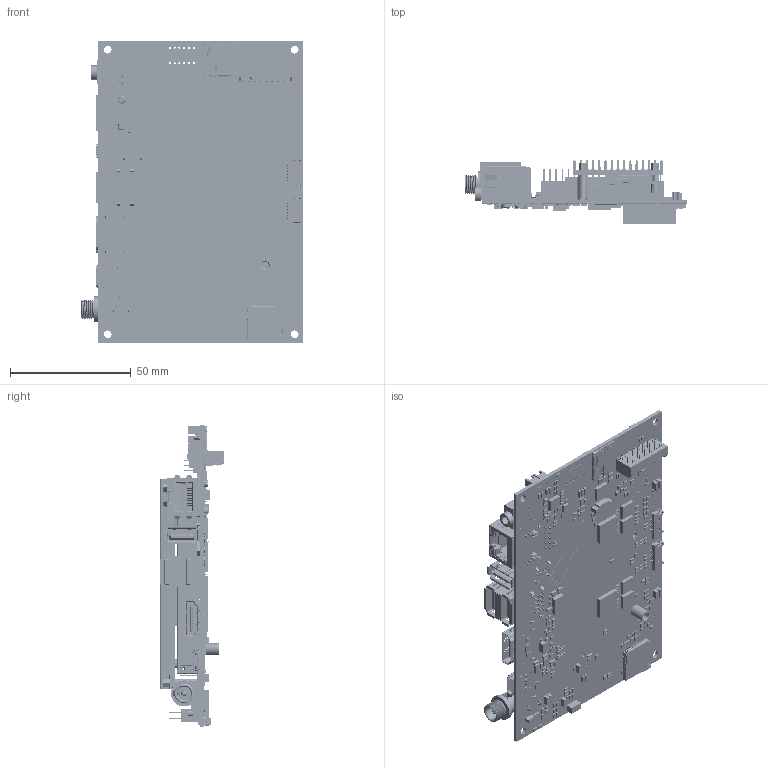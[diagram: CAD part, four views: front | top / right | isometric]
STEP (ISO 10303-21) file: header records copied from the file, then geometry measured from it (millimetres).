
FILE_DESCRIPTION((''),'2;1');
FILE_NAME('WB-EDM-G-IMX8M-PLUG-HS06_ASM','2021-03-31T',('gary'),(''),'CREO PARAMETRIC BY PTC INC, 2014350','CREO PARAMETRIC BY PTC INC, 2014350','');
FILE_SCHEMA(('AUTOMOTIVE_DESIGN { 1 0 10303 214 1 1 1 1 }'));
Products named in the file (154): TN252-PCB; DCD-020-66M; UT11113-11604-7H-327-0708-X2__1; UT11113-11604-7H-327-0708-X2__2; UT11113-11604-7H-327-0708-X2_1_ASM; AUDIO_PJD-035-47B; PIN_HOLDER_2X20_P254_H78_SMT; METALPAD_LEFTX292SAMPLE-1-SOLID; METALPAD_RIGHTX292SAMPLE-1-SOLI; 18466X3SIMPLE-1-SOLID1; __18466X3SIMPLE-2-SOLID1; JAS6-1-SOLID1; EASB0_ASM; ASAA826-EASB0-XH_ASM; SHHORTPIN_4N_7; SHHORTPIN_4N_6; SHHORTPIN_4N_5; SHHORTPIN_4N_4; SHHORTPIN_4N_3; SHHORTPIN_4N_2; SHHORTPIN_4N_1; SHHORTPIN_4N; SHHORTPIN_4N_8; SHORT_4N_ASM; SHELL_4N; LONGPIN_4N; LONGPIN_4N_1; LONGPIN_4N_2; LONGPIN_4N_3; LONGPIN_4N_4; LONGPIN_4N_5; LONGPIN_4N_6; LONGPIN_4N_7; LONGPIN_4N_8; LONGPIN_4N_9; LONG_4N_ASM; HOUSING_4N; 51U-321N_ASM_1_ASM; PICO_AREA_ASM; CON_125P_2PIN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
Assembly tree (1232 placements, depth 5):
  WB-EDM-G-IMX8M-PLUG-HS06_ASM
    TN252-PCB-ASM_ASM
      TN252-PCB
      DCD-020-66M
      UT11113-11604-7H-327-0708-X2_1_ASM
        UT11113-11604-7H-327-0708-X2__1
        UT11113-11604-7H-327-0708-X2__2
      AUDIO_PJD-035-47B
      PIN_HOLDER_2X20_P254_H78_SMT
      ASAA826-EASB0-XH_ASM
        EASB0_ASM
          METALPAD_LEFTX292SAMPLE-1-SOLID
          METALPAD_RIGHTX292SAMPLE-1-SOLI
          18466X3SIMPLE-1-SOLID1
          __18466X3SIMPLE-2-SOLID1
          JAS6-1-SOLID1
      51U-321N_ASM_1_ASM
        SHORT_4N_ASM
          SHHORTPIN_4N_7
          SHHORTPIN_4N_6
          SHHORTPIN_4N_5
          SHHORTPIN_4N_4
          SHHORTPIN_4N_3
          SHHORTPIN_4N_2
          SHHORTPIN_4N_1
          SHHORTPIN_4N
          SHHORTPIN_4N_8
        SHELL_4N
        LONG_4N_ASM
          LONGPIN_4N
          LONGPIN_4N_1
          LONGPIN_4N_2
          LONGPIN_4N_3
          LONGPIN_4N_4
          LONGPIN_4N_5
          LONGPIN_4N_6
          LONGPIN_4N_7
          LONGPIN_4N_8
          LONGPIN_4N_9
        HOUSING_4N
      PICO_AREA_ASM
      CON_125P_2PIN  x2
      LVDS-40PIN-1_1_1_2
      USB-90_
      KRJ-14462-108XX
      MWCSD03S012R_ASM
        MSBR-14
        MSBR-13
        MSBR-12
        MSBR-11
        MSBR-10
        MSBR-9
        MSBR-8
        MSBR-7
        MSBR-6
        MSBR-5
        MSBR-4
        MSBR-3
        MSBR-2
        MSBR-1
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Bounding box: 92.2 x 26.45 x 125 mm (x, y, z)
Volume: 51097.7 mm3; surface area: 85951.6 mm2
Topology: 1221 solids, 1222 shells, 23833 faces, 82688 edges, 68015 vertices
Faces by surface type: plane 20724, cylinder 2789, bspline 148, cone 101, torus 38, sphere 20, extrusion 9, revolution 4
Entity records: 800383 total; most frequent: CARTESIAN_POINT 116435, DIRECTION 97651, ORIENTED_EDGE 75356, PRESENTATION_STYLE_ASSIGNMENT 59605, STYLED_ITEM 59323, CURVE_STYLE 59246, VECTOR 51461, LINE 51452
